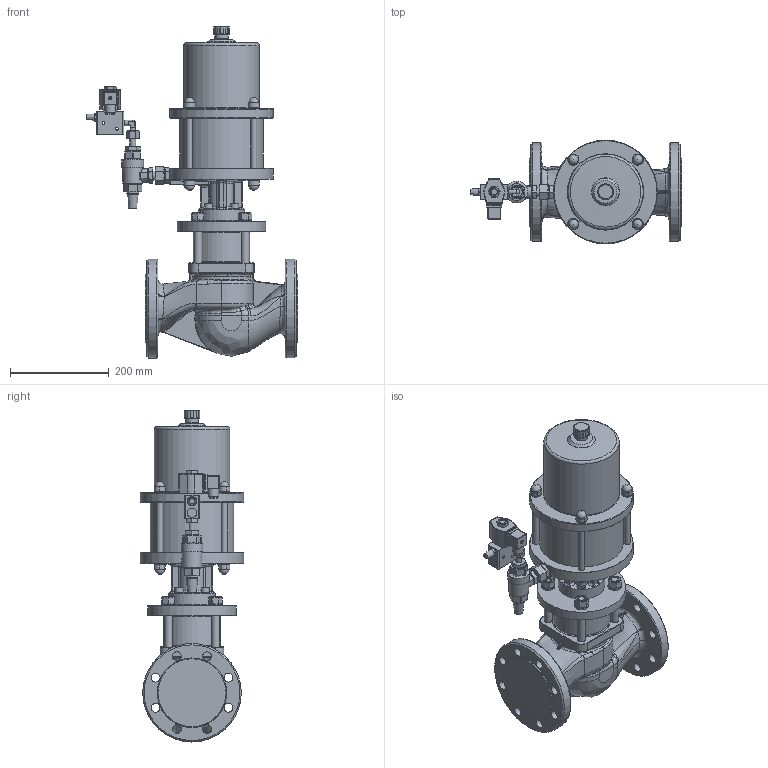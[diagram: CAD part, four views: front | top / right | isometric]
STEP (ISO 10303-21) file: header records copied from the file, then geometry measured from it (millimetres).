
FILE_DESCRIPTION((''),'2;1');
FILE_NAME('G:\CAD-Download\EPVA\40-4-EPVA\DN 30N (80)\40-4-EPVA 30N-4.stp','2010-11-15T13:48:34',('da'),(''),'Autodesk Inventor 2008','Autodesk Inventor 2008','');
FILE_SCHEMA(('AUTOMOTIVE_DESIGN { 1 0 10303 214 1 1 1 1 }'));
Length unit declared in the file: millimetre
Products named in the file (1): Bauteil9
Bounding box: 429.8 x 210 x 673.55 mm (x, y, z)
Volume: 12854228.8 mm3; surface area: 753719.7 mm2
Topology: 1 solids, 2 shells, 1359 faces, 3498 edges, 2172 vertices
Faces by surface type: plane 588, bspline 313, cylinder 271, cone 124, torus 38, sphere 25
Full cylindrical faces by diameter (mm): 5.5 x1, 6.4 x1, 6.9 x1, 10 x4, 10.957 x1, 10.997 x1, 12 x9, 13 x4, 14 x1, 16 x12, 18 x9, 20.15 x2, 21.2 x8, 21.5 x1, 23 x9, 24.376 x1, 26 x1, 26.6 x1, 27 x3, 32.2 x1, 40 x1, 44 x1, 50 x1, 94 x1, 109.8 x1, 109.9 x1, 115 x1, 153 x1, 170 x1, 180 x1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
Entity records: 69271 total; most frequent: CARTESIAN_POINT 38647, ORIENTED_EDGE 6282, DIRECTION 5390, EDGE_CURVE 3141, AXIS2_PLACEMENT_3D 2109, VERTEX_POINT 2057, EDGE_LOOP 1725, FACE_OUTER_BOUND 1358
